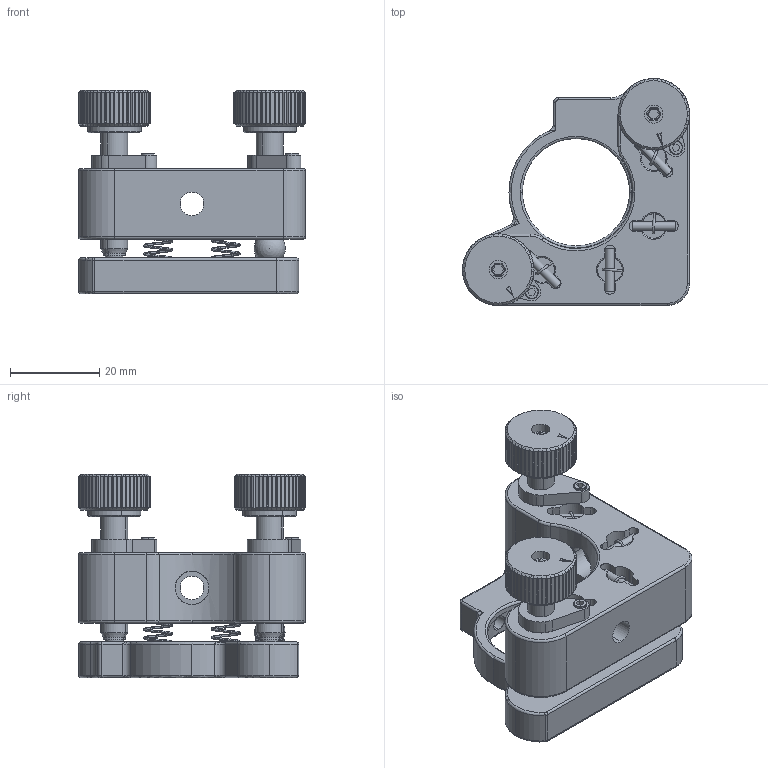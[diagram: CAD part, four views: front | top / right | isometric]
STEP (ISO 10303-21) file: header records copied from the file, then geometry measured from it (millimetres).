
FILE_DESCRIPTION (( 'STEP AP203' ), '1' );
FILE_NAME ('M-TMSO-1R-HOC.STEP', '2020-08-10T01:59:47', ( '匠星' ), ( '' ), 'SwSTEP 2.0', 'SolidWorks 2019', '' );
FILE_SCHEMA (( 'CONFIG_CONTROL_DESIGN' ));
Products named in the file (1): M-TMSO-1R-HOC
Bounding box: 50.8 x 50.8 x 45.5 mm (x, y, z)
Surface area: 16717.6 mm2 (no closed solid volume)
Topology: 0 solids, 19 shells, 923 faces, 2399 edges, 1529 vertices
Faces by surface type: cylinder 409, plane 366, torus 64, cone 44, sphere 22, bspline 18
Entity records: 38073 total; most frequent: CARTESIAN_POINT 16315, ORIENTED_EDGE 4720, DIRECTION 4396, EDGE_CURVE 2366, AXIS2_PLACEMENT_3D 1755, VERTEX_POINT 1522, EDGE_LOOP 990, FACE_OUTER_BOUND 923
